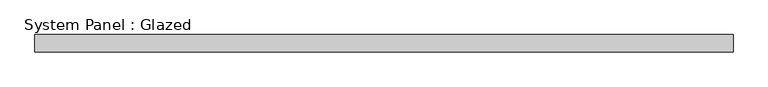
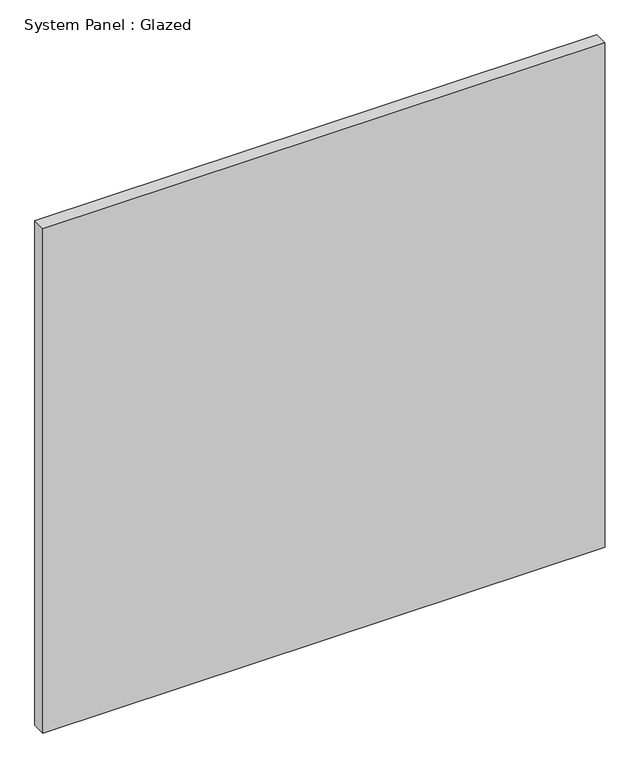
"""IFC4 building model written with IfcOpenShell, lengths in millimetres: plate geometry, System Panel : Glazed."""

from ifc_helpers import new_model, si_unit, origin, origin_with_axes, place, context, project, spatial, polyline, outline, extrude, source, transform, mapped, element, save


def system_panel_glazed_3c280c74(model_context):
    return source(origin(), model_context, "Body", "SweptSolid", [
        extrude(outline(polyline([(516.255, 19.05), (-516.255, 19.05), (-516.255, 44.45), (516.255, 44.45), (516.255, 19.05)])), origin_with_axes(), (0.0, 0.0, 1.0), 979.723638),
    ])


if __name__ == "__main__":
    model = new_model("IFC4")
    model_context = context("Model", 3, world=origin())
    ifc_project = project(units=[si_unit("LENGTHUNIT", "METRE", prefix="MILLI")], contexts=[model_context])
    site = spatial("IfcSite", under=ifc_project)
    building = spatial("IfcBuilding", under=site)
    placement = place(None, origin())
    system_panel_glazed_shape = system_panel_glazed_3c280c74(model_context)
    element("IfcPlate", 1, ObjectType="System Panel : Glazed", at=placement, inside=building, context=model_context, shape_type="MappedRepresentation", body=[
        mapped(system_panel_glazed_shape, transform((0.0, 0.0, 0.0), x_axis=(1.0, 0.0, 0.0), y_axis=(0.0, 1.0, 0.0), z_axis=(0.0, 0.0, 1.0))),
    ])
    save(model, "model.ifc")
